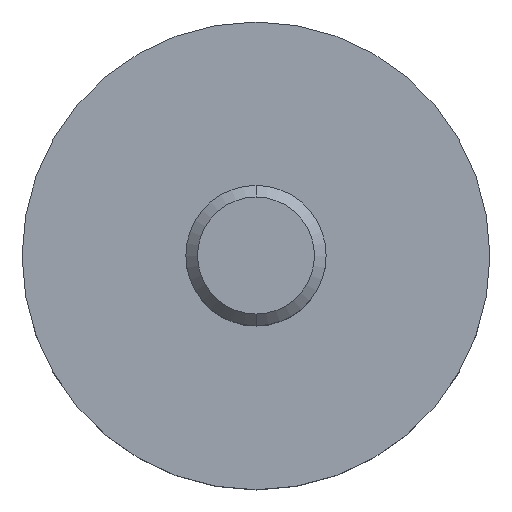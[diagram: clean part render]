
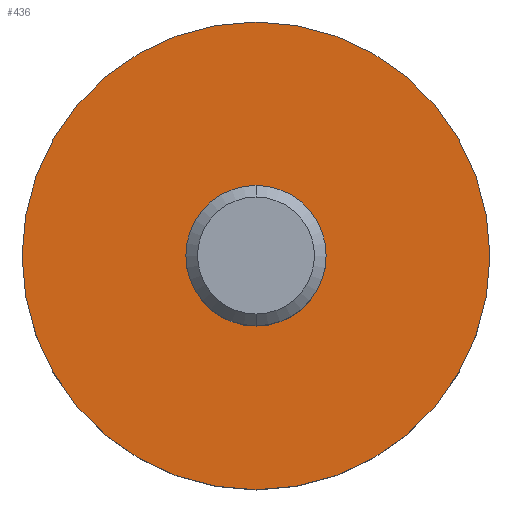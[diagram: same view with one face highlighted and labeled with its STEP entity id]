
A CAD part, top view. The second image highlights one B-rep face of the part: STEP entity #436.
In plain terms, the highlighted planar face has unit normal (0, 0, 1).
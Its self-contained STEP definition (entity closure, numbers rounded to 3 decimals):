
#113=CARTESIAN_POINT('',(0.,0.,-0.8));
#114=DIRECTION('',(0.,0.,1.));
#115=DIRECTION('',(0.,1.,0.));
#116=AXIS2_PLACEMENT_3D('',#113,#114,#115);
#118=CARTESIAN_POINT('',(0.,0.,-0.8));
#119=DIRECTION('',(0.,0.,-1.));
#120=DIRECTION('',(0.,1.,0.));
#121=AXIS2_PLACEMENT_3D('',#118,#119,#120);
#123=CARTESIAN_POINT('',(0.,0.,-0.8));
#124=DIRECTION('',(0.,0.,-1.));
#125=DIRECTION('',(0.,1.,0.));
#126=AXIS2_PLACEMENT_3D('',#123,#124,#125);
#136=CARTESIAN_POINT('',(0.,0.,-0.8));
#137=DIRECTION('',(0.,0.,1.));
#138=DIRECTION('',(0.,1.,0.));
#139=AXIS2_PLACEMENT_3D('',#136,#137,#138);
#208=CARTESIAN_POINT('',(0.,1.,-0.8));
#210=VERTEX_POINT('',#208);
#211=CARTESIAN_POINT('',(0.,0.3,-0.8));
#213=VERTEX_POINT('',#211);
#234=CARTESIAN_POINT('',(0.,-1.,-0.8));
#236=VERTEX_POINT('',#234);
#237=CARTESIAN_POINT('',(0.,-0.3,-0.8));
#239=VERTEX_POINT('',#237);
#421=CARTESIAN_POINT('',(0.,0.,-0.8));
#422=DIRECTION('',(0.,0.,-1.));
#423=DIRECTION('',(0.,-1.,0.));
#424=AXIS2_PLACEMENT_3D('',#421,#422,#423);
#425=PLANE('',#424);
#426=ORIENTED_EDGE('',*,*,#414,.F.);
#427=ORIENTED_EDGE('',*,*,#403,.T.);
#428=EDGE_LOOP('',(#426,#427));
#429=FACE_OUTER_BOUND('',#428,.F.);
#431=ORIENTED_EDGE('',*,*,#430,.F.);
#433=ORIENTED_EDGE('',*,*,#432,.T.);
#434=EDGE_LOOP('',(#431,#433));
#435=FACE_BOUND('',#434,.F.);
#436=ADVANCED_FACE('',(#429,#435),#425,.F.);
#117=CIRCLE('',#116,1.);
#122=CIRCLE('',#121,1.);
#127=CIRCLE('',#126,0.3);
#140=CIRCLE('',#139,0.3);
#403=EDGE_CURVE('',#210,#236,#122,.T.);
#414=EDGE_CURVE('',#210,#236,#117,.T.);
#430=EDGE_CURVE('',#213,#239,#127,.T.);
#432=EDGE_CURVE('',#213,#239,#140,.T.);
